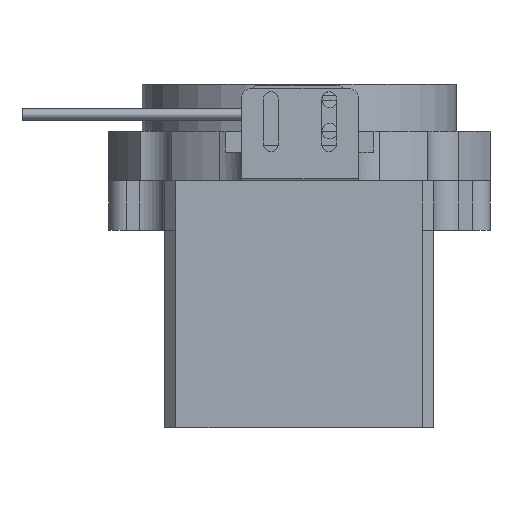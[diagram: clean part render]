
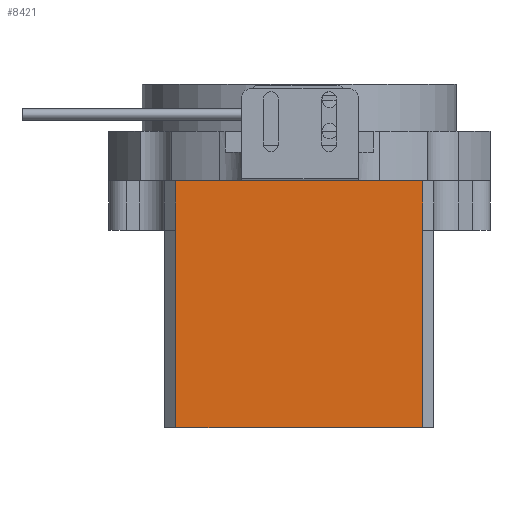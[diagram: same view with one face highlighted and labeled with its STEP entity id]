
A CAD part, front view. The second image highlights one B-rep face of the part: STEP entity #8421.
In plain terms, the highlighted planar face has unit normal (0, -1, 0).
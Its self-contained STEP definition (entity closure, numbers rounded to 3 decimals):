
#109 = EDGE_CURVE ( 'NONE', #7420, #6982, #4789, .T. ) ;
#408 = VECTOR ( 'NONE', #7435, 1000. ) ;
#919 = LINE ( 'NONE', #5479, #2321 ) ;
#994 = VERTEX_POINT ( 'NONE', #2854 ) ;
#1102 = CARTESIAN_POINT ( 'NONE',  ( -31.878, -60.467, 5.75 ) ) ;
#1181 = VECTOR ( 'NONE', #7600, 1000. ) ;
#1260 = DIRECTION ( 'NONE',  ( -1., 0., 0. ) ) ;
#1395 = DIRECTION ( 'NONE',  ( 0., 0., -1. ) ) ;
#1417 = CARTESIAN_POINT ( 'NONE',  ( -4.378, -60.467, 16.75 ) ) ;
#1914 = VECTOR ( 'NONE', #1260, 1000. ) ;
#2008 = ORIENTED_EDGE ( 'NONE', *, *, #2284, .F. ) ;
#2284 = EDGE_CURVE ( 'NONE', #8493, #3668, #3219, .T. ) ;
#2308 = ORIENTED_EDGE ( 'NONE', *, *, #3160, .T. ) ;
#2321 = VECTOR ( 'NONE', #1395, 1000. ) ;
#2789 = LINE ( 'NONE', #5433, #7298 ) ;
#2854 = CARTESIAN_POINT ( 'NONE',  ( 23.122, -60.467, 16.75 ) ) ;
#3098 = VECTOR ( 'NONE', #8052, 1000. ) ;
#3160 = EDGE_CURVE ( 'NONE', #6982, #3668, #919, .T. ) ;
#3209 = EDGE_LOOP ( 'NONE', ( #4394, #2308, #2008, #4103, #3303, #7927 ) ) ;
#3219 = LINE ( 'NONE', #5912, #1914 ) ;
#3224 = EDGE_CURVE ( 'NONE', #8493, #5382, #2789, .T. ) ;
#3303 = ORIENTED_EDGE ( 'NONE', *, *, #5633, .T. ) ;
#3668 = VERTEX_POINT ( 'NONE', #6954 ) ;
#4064 = CARTESIAN_POINT ( 'NONE',  ( 23.122, -60.467, -38.25 ) ) ;
#4103 = ORIENTED_EDGE ( 'NONE', *, *, #3224, .T. ) ;
#4394 = ORIENTED_EDGE ( 'NONE', *, *, #109, .T. ) ;
#4544 = FACE_OUTER_BOUND ( 'NONE', #3209, .T. ) ;
#4635 = CARTESIAN_POINT ( 'NONE',  ( -4.378, -60.467, 38.25 ) ) ;
#4789 = LINE ( 'NONE', #8165, #408 ) ;
#4918 = LINE ( 'NONE', #6914, #1181 ) ;
#5197 = DIRECTION ( 'NONE',  ( 0., 1., 0. ) ) ;
#5327 = PLANE ( 'NONE',  #6969 ) ;
#5382 = VERTEX_POINT ( 'NONE', #6339 ) ;
#5433 = CARTESIAN_POINT ( 'NONE',  ( 23.122, -60.467, 5.75 ) ) ;
#5479 = CARTESIAN_POINT ( 'NONE',  ( -31.878, -60.467, 38.25 ) ) ;
#5633 = EDGE_CURVE ( 'NONE', #5382, #994, #4918, .T. ) ;
#5912 = CARTESIAN_POINT ( 'NONE',  ( 25.622, -60.467, -38.25 ) ) ;
#6130 = DIRECTION ( 'NONE',  ( 0., 0., 1. ) ) ;
#6154 = LINE ( 'NONE', #1417, #3098 ) ;
#6339 = CARTESIAN_POINT ( 'NONE',  ( 23.122, -60.467, 5.75 ) ) ;
#6914 = CARTESIAN_POINT ( 'NONE',  ( 23.122, -60.467, 16.75 ) ) ;
#6954 = CARTESIAN_POINT ( 'NONE',  ( -31.878, -60.467, -38.25 ) ) ;
#6969 = AXIS2_PLACEMENT_3D ( 'NONE', #4635, #5197, #7280 ) ;
#6982 = VERTEX_POINT ( 'NONE', #1102 ) ;
#7280 = DIRECTION ( 'NONE',  ( 1., 0., 0. ) ) ;
#7298 = VECTOR ( 'NONE', #6130, 1000. ) ;
#7420 = VERTEX_POINT ( 'NONE', #7702 ) ;
#7435 = DIRECTION ( 'NONE',  ( 0., 0., -1. ) ) ;
#7600 = DIRECTION ( 'NONE',  ( 0., 0., 1. ) ) ;
#7702 = CARTESIAN_POINT ( 'NONE',  ( -31.878, -60.467, 16.75 ) ) ;
#7927 = ORIENTED_EDGE ( 'NONE', *, *, #8486, .F. ) ;
#8052 = DIRECTION ( 'NONE',  ( 1., 0., 0. ) ) ;
#8165 = CARTESIAN_POINT ( 'NONE',  ( -31.878, -60.467, 38.25 ) ) ;
#8421 = ADVANCED_FACE ( 'NONE', ( #4544 ), #5327, .F. ) ;
#8486 = EDGE_CURVE ( 'NONE', #7420, #994, #6154, .T. ) ;
#8493 = VERTEX_POINT ( 'NONE', #4064 ) ;
